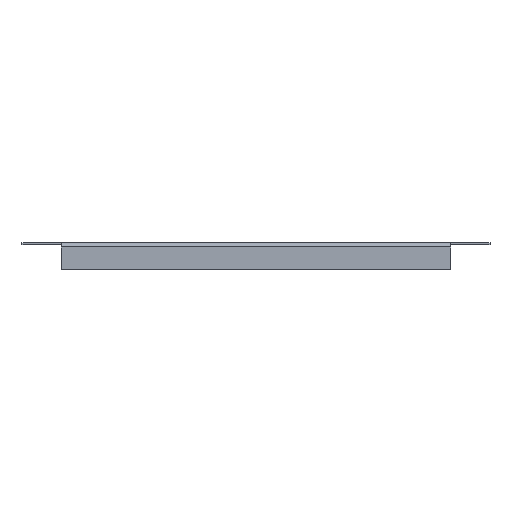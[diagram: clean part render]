
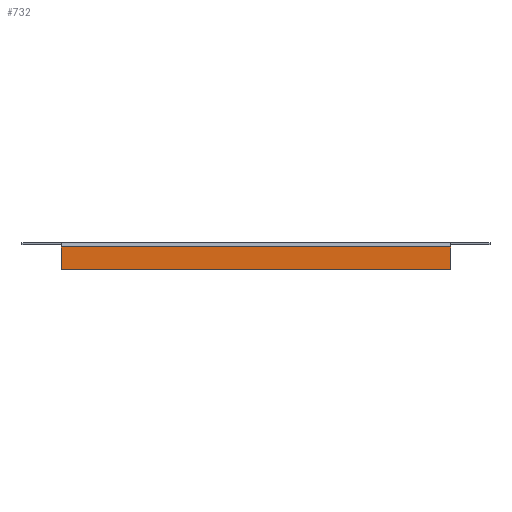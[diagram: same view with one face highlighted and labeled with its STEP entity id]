
A CAD part, front view. The second image highlights one B-rep face of the part: STEP entity #732.
In plain terms, the highlighted planar face has unit normal (0, -1, 0).
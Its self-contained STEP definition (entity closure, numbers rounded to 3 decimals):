
#8 = VECTOR ( 'NONE', #82, 1000. ) ;
#13 = EDGE_CURVE ( 'NONE', #655, #609, #949, .T. ) ;
#16 = EDGE_CURVE ( 'NONE', #431, #933, #899, .T. ) ;
#66 = DIRECTION ( 'NONE',  ( 1., 0., 0. ) ) ;
#68 = CARTESIAN_POINT ( 'NONE',  ( -110.2, -224.5, -13.8 ) ) ;
#82 = DIRECTION ( 'NONE',  ( 0., 0., -1. ) ) ;
#95 = DIRECTION ( 'NONE',  ( 0., 0., 1. ) ) ;
#109 = VECTOR ( 'NONE', #95, 1000. ) ;
#148 = PLANE ( 'NONE',  #900 ) ;
#151 = VECTOR ( 'NONE', #1272, 1000. ) ;
#198 = LINE ( 'NONE', #1065, #151 ) ;
#203 = VECTOR ( 'NONE', #66, 1000. ) ;
#398 = CARTESIAN_POINT ( 'NONE',  ( -110.2, -224.5, -13.8 ) ) ;
#425 = EDGE_CURVE ( 'NONE', #933, #655, #460, .T. ) ;
#431 = VERTEX_POINT ( 'NONE', #68 ) ;
#455 = DIRECTION ( 'NONE',  ( 0., 0., 1. ) ) ;
#460 = LINE ( 'NONE', #1109, #203 ) ;
#480 = ORIENTED_EDGE ( 'NONE', *, *, #13, .F. ) ;
#482 = ORIENTED_EDGE ( 'NONE', *, *, #16, .F. ) ;
#592 = CARTESIAN_POINT ( 'NONE',  ( 110.2, -224.5, -13.8 ) ) ;
#609 = VERTEX_POINT ( 'NONE', #592 ) ;
#645 = DIRECTION ( 'NONE',  ( 0., 1., 0. ) ) ;
#655 = VERTEX_POINT ( 'NONE', #1270 ) ;
#732 = ADVANCED_FACE ( 'NONE', ( #1158 ), #148, .F. ) ;
#733 = EDGE_LOOP ( 'NONE', ( #1127, #482, #1283, #480 ) ) ;
#888 = CARTESIAN_POINT ( 'NONE',  ( -110.2, -224.5, -1.2 ) ) ;
#899 = LINE ( 'NONE', #398, #109 ) ;
#900 = AXIS2_PLACEMENT_3D ( 'NONE', #1273, #645, #455 ) ;
#933 = VERTEX_POINT ( 'NONE', #888 ) ;
#949 = LINE ( 'NONE', #1233, #8 ) ;
#1065 = CARTESIAN_POINT ( 'NONE',  ( 110.2, -224.5, -13.8 ) ) ;
#1109 = CARTESIAN_POINT ( 'NONE',  ( 110.2, -224.5, -1.2 ) ) ;
#1127 = ORIENTED_EDGE ( 'NONE', *, *, #425, .F. ) ;
#1133 = EDGE_CURVE ( 'NONE', #609, #431, #198, .T. ) ;
#1158 = FACE_OUTER_BOUND ( 'NONE', #733, .T. ) ;
#1233 = CARTESIAN_POINT ( 'NONE',  ( 110.2, -224.5, 0. ) ) ;
#1270 = CARTESIAN_POINT ( 'NONE',  ( 110.2, -224.5, -1.2 ) ) ;
#1272 = DIRECTION ( 'NONE',  ( -1., 0., 0. ) ) ;
#1273 = CARTESIAN_POINT ( 'NONE',  ( 110.2, -224.5, 0. ) ) ;
#1283 = ORIENTED_EDGE ( 'NONE', *, *, #1133, .F. ) ;
